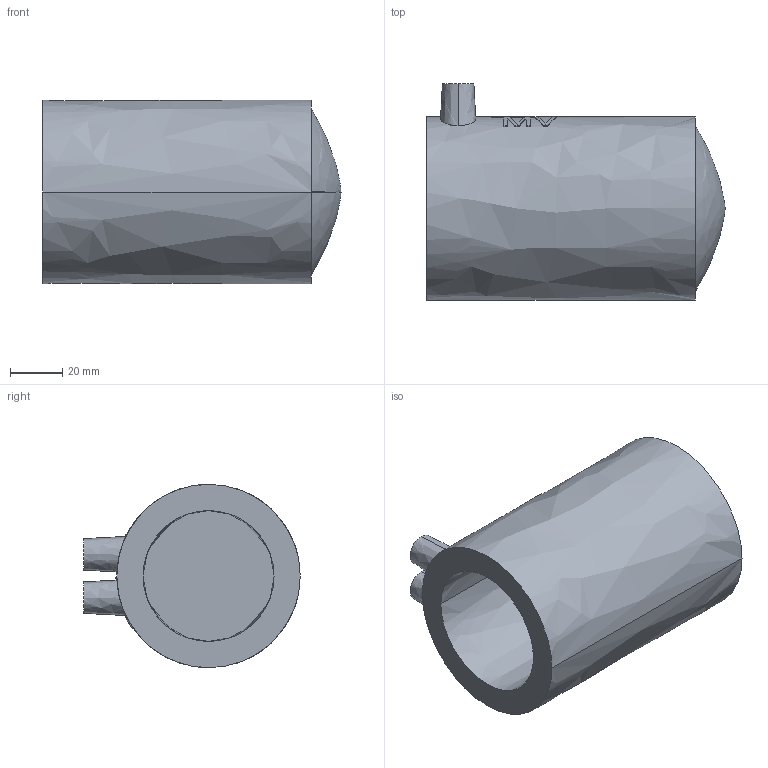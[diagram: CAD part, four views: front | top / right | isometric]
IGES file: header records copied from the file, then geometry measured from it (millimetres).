
Start section:  PTC IGES file: mv_d50.igs
Global section: file name: mv_d50.igs; native system: Pro/ENGINEER by Parametric Technology Corporation; preprocessor: 2006140; author: muellerc; organization: Unknown; date: 20060803.100257; units: millimetre
Bounding box: 114 x 82.65 x 70 mm (x, y, z)
Surface area: 40077.8 mm2 (no closed solid volume)
Topology: 0 solids, 0 shells, 53 faces, 325 edges, 330 vertices
Faces by surface type: bspline 53
